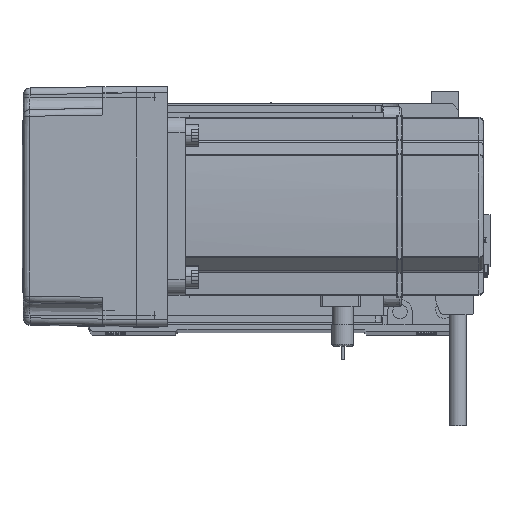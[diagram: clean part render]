
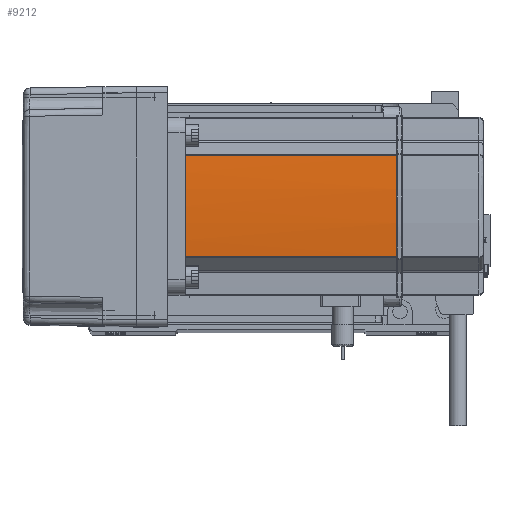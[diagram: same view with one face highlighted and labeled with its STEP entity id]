
A CAD part, top view. The second image highlights one B-rep face of the part: STEP entity #9212.
In plain terms, the highlighted cylindrical face has radius 270 mm (diameter 540 mm), a partial arc.
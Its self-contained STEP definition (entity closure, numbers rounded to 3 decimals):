
#581 = CARTESIAN_POINT ( 'NONE',  ( 39.042, -22.724, 134. ) ) ;
#2473 = CARTESIAN_POINT ( 'NONE',  ( 40., -0.127, 134. ) ) ;
#3251 = CARTESIAN_POINT ( 'NONE',  ( 40., 0.042, 134. ) ) ;
#6118 = VECTOR ( 'NONE', #33812, 1000. ) ;
#6578 = CARTESIAN_POINT ( 'NONE',  ( 39.042, 22.724, 58. ) ) ;
#7256 = DIRECTION ( 'NONE',  ( 0., 0., -1. ) ) ;
#7300 = DIRECTION ( 'NONE',  ( 0., 0., -1. ) ) ;
#7996 = AXIS2_PLACEMENT_3D ( 'NONE', #23561, #35550, #20065 ) ;
#8124 = AXIS2_PLACEMENT_3D ( 'NONE', #24540, #7300, #20646 ) ;
#9212 = ADVANCED_FACE ( 'NONE', ( #23544 ), #50850, .T. ) ;
#9774 = LINE ( 'NONE', #47233, #38528 ) ;
#16006 = EDGE_CURVE ( 'NONE', #53420, #46523, #54839, .T. ) ;
#17203 = B_SPLINE_CURVE_WITH_KNOTS ( 'NONE', 3,
 ( #2473, #39125, #3251, #43306 ),
 .UNSPECIFIED., .F., .F.,
 ( 4, 4 ),
 ( 0., 1. ),
 .UNSPECIFIED. ) ;
#17220 = EDGE_CURVE ( 'NONE', #36150, #26761, #42823, .T. ) ;
#17560 = CARTESIAN_POINT ( 'NONE',  ( 40., 0.127, 134. ) ) ;
#18367 = VERTEX_POINT ( 'NONE', #35934 ) ;
#18881 = ORIENTED_EDGE ( 'NONE', *, *, #27945, .F. ) ;
#20065 = DIRECTION ( 'NONE',  ( -1., 0., 0. ) ) ;
#20646 = DIRECTION ( 'NONE',  ( -1., 0., 0. ) ) ;
#20961 = DIRECTION ( 'NONE',  ( -1., 0., 0. ) ) ;
#21397 = VERTEX_POINT ( 'NONE', #54377 ) ;
#21619 = EDGE_CURVE ( 'NONE', #18367, #36150, #42631, .T. ) ;
#21704 = CARTESIAN_POINT ( 'NONE',  ( 39.042, 22.724, 134. ) ) ;
#22868 = CIRCLE ( 'NONE', #8124, 270. ) ;
#23544 = FACE_OUTER_BOUND ( 'NONE', #56012, .T. ) ;
#23561 = CARTESIAN_POINT ( 'NONE',  ( -230., 0., 134. ) ) ;
#24540 = CARTESIAN_POINT ( 'NONE',  ( -230., 0., 39. ) ) ;
#25070 = CARTESIAN_POINT ( 'NONE',  ( -230., 0., 58. ) ) ;
#25975 = EDGE_CURVE ( 'NONE', #46523, #21397, #9774, .T. ) ;
#26761 = VERTEX_POINT ( 'NONE', #17560 ) ;
#27945 = EDGE_CURVE ( 'NONE', #53420, #26761, #17203, .T. ) ;
#28194 = AXIS2_PLACEMENT_3D ( 'NONE', #25070, #38571, #20961 ) ;
#29401 = CARTESIAN_POINT ( 'NONE',  ( -230., 0., 134. ) ) ;
#33812 = DIRECTION ( 'NONE',  ( 0., 0., 1. ) ) ;
#34819 = AXIS2_PLACEMENT_3D ( 'NONE', #29401, #47844, #39016 ) ;
#35550 = DIRECTION ( 'NONE',  ( 0., 0., -1. ) ) ;
#35934 = CARTESIAN_POINT ( 'NONE',  ( 39.042, 22.724, 39. ) ) ;
#36087 = ORIENTED_EDGE ( 'NONE', *, *, #16006, .T. ) ;
#36150 = VERTEX_POINT ( 'NONE', #21704 ) ;
#38528 = VECTOR ( 'NONE', #7256, 1000. ) ;
#38571 = DIRECTION ( 'NONE',  ( 0., 0., -1. ) ) ;
#39016 = DIRECTION ( 'NONE',  ( -1., 0., 0. ) ) ;
#39125 = CARTESIAN_POINT ( 'NONE',  ( 40., -0.042, 134. ) ) ;
#41165 = ORIENTED_EDGE ( 'NONE', *, *, #25975, .T. ) ;
#42438 = ORIENTED_EDGE ( 'NONE', *, *, #46147, .F. ) ;
#42631 = LINE ( 'NONE', #6578, #6118 ) ;
#42823 = CIRCLE ( 'NONE', #34819, 270. ) ;
#43306 = CARTESIAN_POINT ( 'NONE',  ( 40., 0.127, 134. ) ) ;
#44852 = ORIENTED_EDGE ( 'NONE', *, *, #21619, .T. ) ;
#46147 = EDGE_CURVE ( 'NONE', #18367, #21397, #22868, .T. ) ;
#46523 = VERTEX_POINT ( 'NONE', #581 ) ;
#47233 = CARTESIAN_POINT ( 'NONE',  ( 39.042, -22.724, 58. ) ) ;
#47844 = DIRECTION ( 'NONE',  ( 0., 0., -1. ) ) ;
#50850 = CYLINDRICAL_SURFACE ( 'NONE', #28194, 270. ) ;
#53420 = VERTEX_POINT ( 'NONE', #53568 ) ;
#53568 = CARTESIAN_POINT ( 'NONE',  ( 40., -0.127, 134. ) ) ;
#54377 = CARTESIAN_POINT ( 'NONE',  ( 39.042, -22.724, 39. ) ) ;
#54839 = CIRCLE ( 'NONE', #7996, 270. ) ;
#56012 = EDGE_LOOP ( 'NONE', ( #41165, #42438, #44852, #56411, #18881, #36087 ) ) ;
#56411 = ORIENTED_EDGE ( 'NONE', *, *, #17220, .T. ) ;
